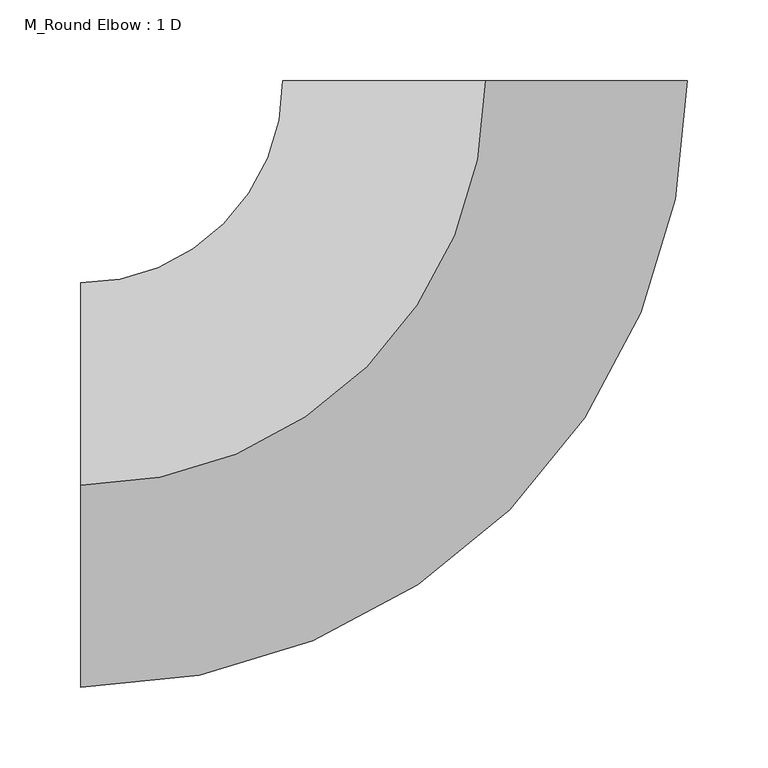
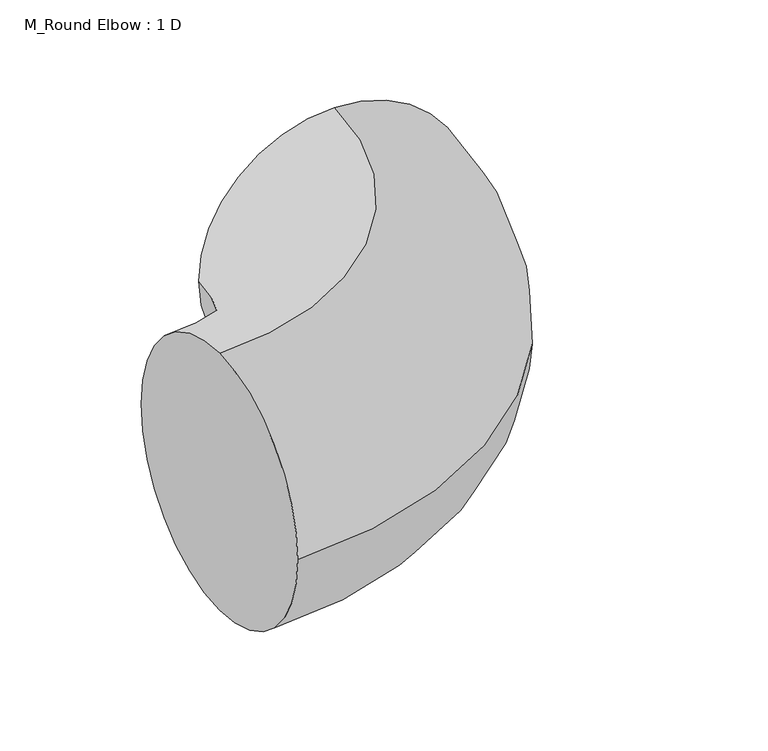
"""IFC4 building model written with IfcOpenShell, lengths in millimetres: duct fitting geometry, M_Round Elbow : 1 D."""

from ifc_helpers import new_model, si_unit, point, frame, origin, place, context, project, spatial, circle_curve, ellipse_curve, trimmed, source, transform, mapped, element, save
from ifc_brep_helpers import plane_surface, revolved_surface, advanced_brep


def m_round_elbow_1_d_a3c698fd(model_context):
    return source(origin(), model_context, "Body", "AdvancedBrep", [
        advanced_brep(
        [(-250.0, 0.0, 125.0), (-250.0, 125.0, 0.0), (-250.0, 0.0, -125.0), (-250.0, -125.0, 0.0), (0.0, 250.0, 125.0), (125.0, 250.0, 0.0), (0.0, 250.0, -125.0), (-125.0, 250.0, 0.0)],
        [
            (0, 1, circle_curve(frame((-250.0, 0.0, 0.0), z_axis=(-1.0, 0.0, 0.0), x_axis=(0.0, 1.0, 0.0)), 125.0)),
            (1, 2, circle_curve(frame((-250.0, 0.0, 0.0), z_axis=(-1.0, 0.0, 0.0), x_axis=(0.0, 1.0, 0.0)), 125.0)),
            (2, 3, circle_curve(frame((-250.0, 0.0, 0.0), z_axis=(-1.0, 0.0, 0.0), x_axis=(0.0, 1.0, 0.0)), 125.0)),
            (3, 0, circle_curve(frame((-250.0, 0.0, 0.0), z_axis=(-1.0, 0.0, 0.0), x_axis=(0.0, 1.0, 0.0)), 125.0)),
            (4, 5, circle_curve(frame((0.0, 250.0, 0.0), z_axis=(0.0, 1.0, 0.0), x_axis=(-1.0, 0.0, 0.0)), 125.0)),
            (5, 6, circle_curve(frame((0.0, 250.0, 0.0), z_axis=(0.0, 1.0, 0.0), x_axis=(-1.0, 0.0, 0.0)), 125.0)),
            (6, 7, circle_curve(frame((0.0, 250.0, 0.0), z_axis=(0.0, 1.0, 0.0), x_axis=(-1.0, 0.0, 0.0)), 125.0)),
            (7, 4, circle_curve(frame((0.0, 250.0, 0.0), z_axis=(0.0, 1.0, 0.0), x_axis=(-1.0, 0.0, 0.0)), 125.0)),
            (7, 1, circle_curve(frame((-250.0, 250.0, 0.0), z_axis=(0.0, 0.0, -1.0), x_axis=(0.0, -1.0, 0.0)), 125.0)),
            (0, 4, circle_curve(frame((-250.0, 250.0, 125.0), z_axis=(0.0, 0.0, 1.0), x_axis=(0.0, -1.0, 0.0)), 250.0)),
            (6, 2, circle_curve(frame((-250.0, 250.0, -125.0), z_axis=(0.0, 0.0, -1.0), x_axis=(0.0, -1.0, 0.0)), 250.0)),
            (5, 3, circle_curve(frame((-250.0, 250.0, 0.0), z_axis=(0.0, 0.0, -1.0), x_axis=(0.0, -1.0, 0.0)), 375.0)),
        ],
        [
            plane_surface(frame((-250.0, 0.0, 0.0), z_axis=(-1.0, 0.0, 0.0), x_axis=(0.0, 0.0, 1.0))),
            plane_surface(frame((0.0, 250.0, 0.0), z_axis=(0.0, 1.0, 0.0), x_axis=(0.0, 0.0, 1.0))),
            revolved_surface(trimmed(ellipse_curve(frame((-250.0, 0.0, 0.0), z_axis=(-1.0, 0.0, 0.0), x_axis=(0.0, 1.0, 0.0)), 125.0, 125.0), [point((-250.0, 0.0, 125.0))], [point((-250.0, 125.0, 0.0))], True, "CARTESIAN"), (-250.0, 250.0, 0.0), (0.0, 0.0, 1.0)),
            revolved_surface(trimmed(ellipse_curve(frame((-250.0, 0.0, 0.0), z_axis=(-1.0, 0.0, 0.0), x_axis=(0.0, 1.0, 0.0)), 125.0, 125.0), [point((-250.0, 125.0, 0.0))], [point((-250.0, 0.0, -125.0))], True, "CARTESIAN"), (-250.0, 250.0, 0.0), (0.0, 0.0, 1.0)),
            revolved_surface(trimmed(ellipse_curve(frame((-250.0, 0.0, 0.0), z_axis=(-1.0, 0.0, 0.0), x_axis=(0.0, 1.0, 0.0)), 125.0, 125.0), [point((-250.0, 0.0, -125.0))], [point((-250.0, -125.0, 0.0))], True, "CARTESIAN"), (-250.0, 250.0, 0.0), (0.0, 0.0, 1.0)),
            revolved_surface(trimmed(ellipse_curve(frame((-250.0, 0.0, 0.0), z_axis=(-1.0, 0.0, 0.0), x_axis=(0.0, 1.0, 0.0)), 125.0, 125.0), [point((-250.0, -125.0, 0.0))], [point((-250.0, 0.0, 125.0))], True, "CARTESIAN"), (-250.0, 250.0, 0.0), (0.0, 0.0, 1.0)),
        ],
        [
            (0, [[1, 2, 3, 4]]),
            (1, [[5, 6, 7, 8]]),
            (2, [[9, -1, 10, -8]]),
            (3, [[11, -2, -9, -7]]),
            (4, [[12, -3, -11, -6]]),
            (5, [[-10, -4, -12, -5]]),
        ],
    ),
    ])


if __name__ == "__main__":
    model = new_model("IFC4")
    model_context = context("Model", 3, world=origin())
    ifc_project = project(units=[si_unit("LENGTHUNIT", "METRE", prefix="MILLI")], contexts=[model_context])
    site = spatial("IfcSite", under=ifc_project)
    building = spatial("IfcBuilding", under=site)
    placement = place(None, origin())
    m_round_elbow_1_d_shape = m_round_elbow_1_d_a3c698fd(model_context)
    element("IfcDuctFitting", 1, ObjectType="M_Round Elbow : 1 D", at=placement, inside=building, context=model_context, shape_type="MappedRepresentation", body=[
        mapped(m_round_elbow_1_d_shape, transform((0.0, 0.0, 0.0), x_axis=(1.0, 0.0, 0.0), y_axis=(0.0, 1.0, 0.0), z_axis=(0.0, 0.0, 1.0))),
    ])
    save(model, "model.ifc")
